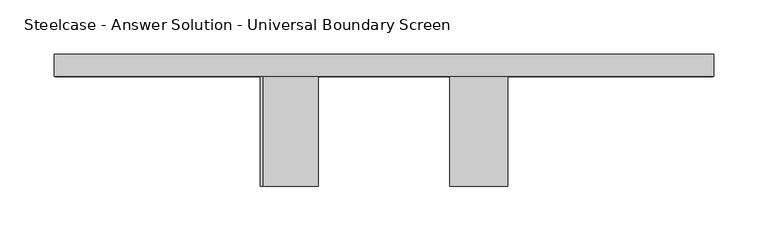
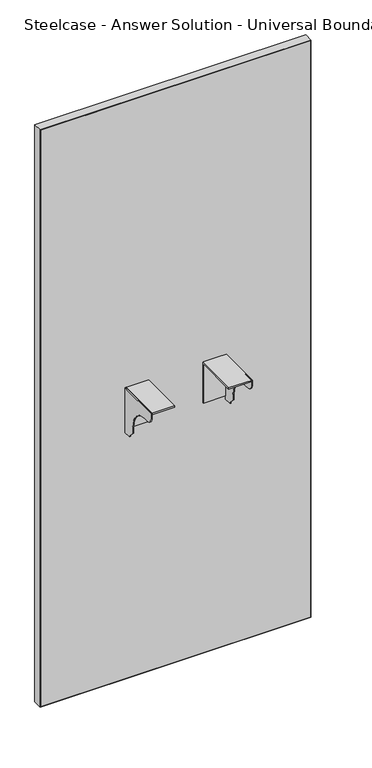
"""IFC4 building model written with IfcOpenShell, lengths in millimetres: furniture geometry, Steelcase - Answer Solution - Universal Boundary Screen : 54H x 24W."""

from ifc_helpers import new_model, si_unit, point, frame, frame_2d, origin, place, context, project, spatial, polyline, circle_curve, trimmed, segment, composite_curve, outline, extrude, source, transform, mapped, element, save


def steelcase_answer_solution_universal_boundary_screen_0c94359f(model_context):
    return source(origin(), model_context, "Body", "SweptSolid", [
        extrude(outline(polyline([(-103.1670434, 689.3558876), (-103.1670434, 692.1499758), (-1.5668826, 692.1499758), (-1.5668826, 595.5029317), (-4.1079736, 595.5029317), (-4.1079736, 689.3558876), (-103.1670434, 689.3558876)])), frame((591.0336711, 0.0, 0.0), z_axis=(1.0, 0.0, 0.0), x_axis=(0.0, 1.0, 0.0)), (0.0, 0.0, 1.0), 53.3444116),
        extrude(outline(composite_curve([segment(polyline([(-103.1670434, 679.2814802), (-103.1670434, 692.1499758), (-1.5668826, 692.1499758), (-1.5668826, 586.9634093), (-19.8232934, 586.9634093), (-19.8232934, 589.7574248), (-32.0458032, 601.9799346), (-32.0458032, 615.7814802)]), True, "CONTINUOUS"), segment(trimmed(circle_curve(frame_2d((-82.8458032, 615.7814802)), 50.8), [point((-32.0458032, 615.7814802))], [point((-82.8458032, 666.5814802))], True, "CARTESIAN"), True, "CONTINUOUS"), segment(polyline([(-82.8458032, 666.5814802), (-90.4670434, 666.5814802)]), True, "CONTINUOUS"), segment(trimmed(circle_curve(frame_2d((-90.4670434, 679.2814802)), 12.7), [point((-90.4670434, 666.5814802))], [point((-103.1670434, 679.2814802))], False, "CARTESIAN"), True, "CONTINUOUS")], self_intersect=False)), frame((641.8328959, 0.0, 0.0), z_axis=(1.0, 0.0, 0.0), x_axis=(0.0, 1.0, 0.0)), (0.0, 0.0, 1.0), 2.5451868),
        extrude(outline(polyline([(-103.1670434, 689.3558876), (-103.1670434, 692.1499758), (-1.5668826, 692.1499758), (-1.5668826, 595.5029317), (-4.1079736, 595.5029317), (-4.1079736, 689.3558876), (-103.1670434, 689.3558876)])), frame((418.3232694, 0.0, 0.0), z_axis=(1.0, 0.0, 0.0), x_axis=(0.0, 1.0, 0.0)), (0.0, 0.0, 1.0), 50.7992249),
        extrude(outline(composite_curve([segment(polyline([(-103.1670434, 679.2814802), (-103.1670434, 692.1499758), (-1.5668826, 692.1499758), (-1.5668826, 586.9634093), (-19.8232934, 586.9634093), (-19.8232934, 589.7574248), (-32.0458032, 601.9799346), (-32.0458032, 615.7814802)]), True, "CONTINUOUS"), segment(trimmed(circle_curve(frame_2d((-82.8458032, 615.7814802)), 50.8), [point((-32.0458032, 615.7814802))], [point((-82.8458032, 666.5814802))], True, "CARTESIAN"), True, "CONTINUOUS"), segment(polyline([(-82.8458032, 666.5814802), (-90.4670434, 666.5814802)]), True, "CONTINUOUS"), segment(trimmed(circle_curve(frame_2d((-90.4670434, 679.2814802)), 12.7), [point((-90.4670434, 666.5814802))], [point((-103.1670434, 679.2814802))], False, "CARTESIAN"), True, "CONTINUOUS")], self_intersect=False)), frame((415.7780827, 0.0, 0.0), z_axis=(1.0, 0.0, 0.0), x_axis=(0.0, 1.0, 0.0)), (0.0, 0.0, 1.0), 2.5451868),
        extrude(outline(polyline([(226.2706578, 18.9055112), (833.8855076, 18.9055112), (833.8855076, -1.5668826), (226.2706578, -1.5668826), (226.2706578, 18.9055112)])), frame((0.0, 0.0, 1.016), z_axis=(0.0, 0.0, 1.0), x_axis=(1.0, 0.0, 0.0)), (0.0, 0.0, 1.0), 1369.5914249),
        extrude(outline(polyline([(1371.6, 834.8780827), (1371.6, 225.2780827), (0.0, 225.2780827), (0.0, 834.8780827), (1371.6, 834.8780827)]), holes=[polyline([(1370.6074249, 833.8855076), (1.016, 833.8855076), (1.016, 226.2706578), (1370.6074249, 226.2706578), (1370.6074249, 833.8855076)])]), frame((0.0, -1.5668826, 0.0), z_axis=(0.0, 1.0, 0.0), x_axis=(0.0, 0.0, 1.0)), (0.0, 0.0, 1.0), 20.4723938),
    ])


if __name__ == "__main__":
    model = new_model("IFC4")
    model_context = context("Model", 3, world=origin())
    ifc_project = project(units=[si_unit("LENGTHUNIT", "METRE", prefix="MILLI")], contexts=[model_context])
    site = spatial("IfcSite", under=ifc_project)
    building = spatial("IfcBuilding", under=site)
    placement = place(None, origin())
    steelcase_answer_solution_universal_boundary_screen_shape = steelcase_answer_solution_universal_boundary_screen_0c94359f(model_context)
    element("IfcFurniture", 1, ObjectType="Steelcase - Answer Solution - Universal Boundary Screen : 54H x 24W", at=placement, inside=building, context=model_context, shape_type="MappedRepresentation", body=[
        mapped(steelcase_answer_solution_universal_boundary_screen_shape, transform((0.0, 0.0, 0.0), x_axis=(1.0, 0.0, 0.0), y_axis=(0.0, 1.0, 0.0), z_axis=(0.0, 0.0, 1.0))),
    ])
    save(model, "model.ifc")
